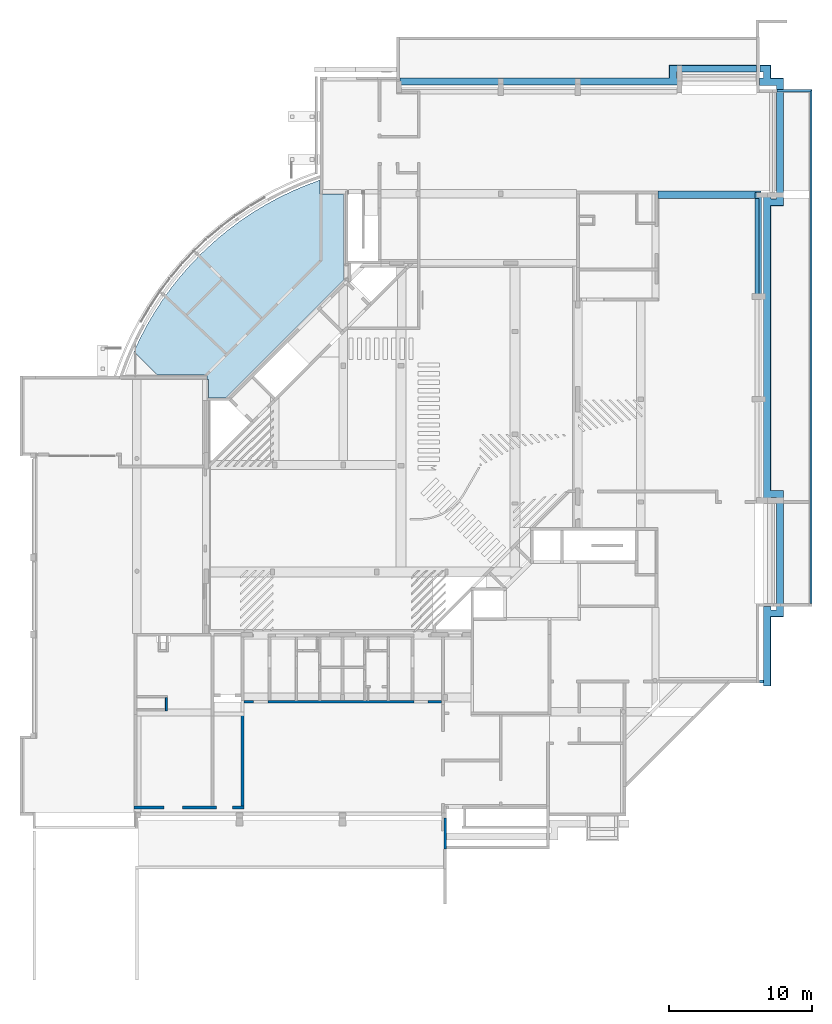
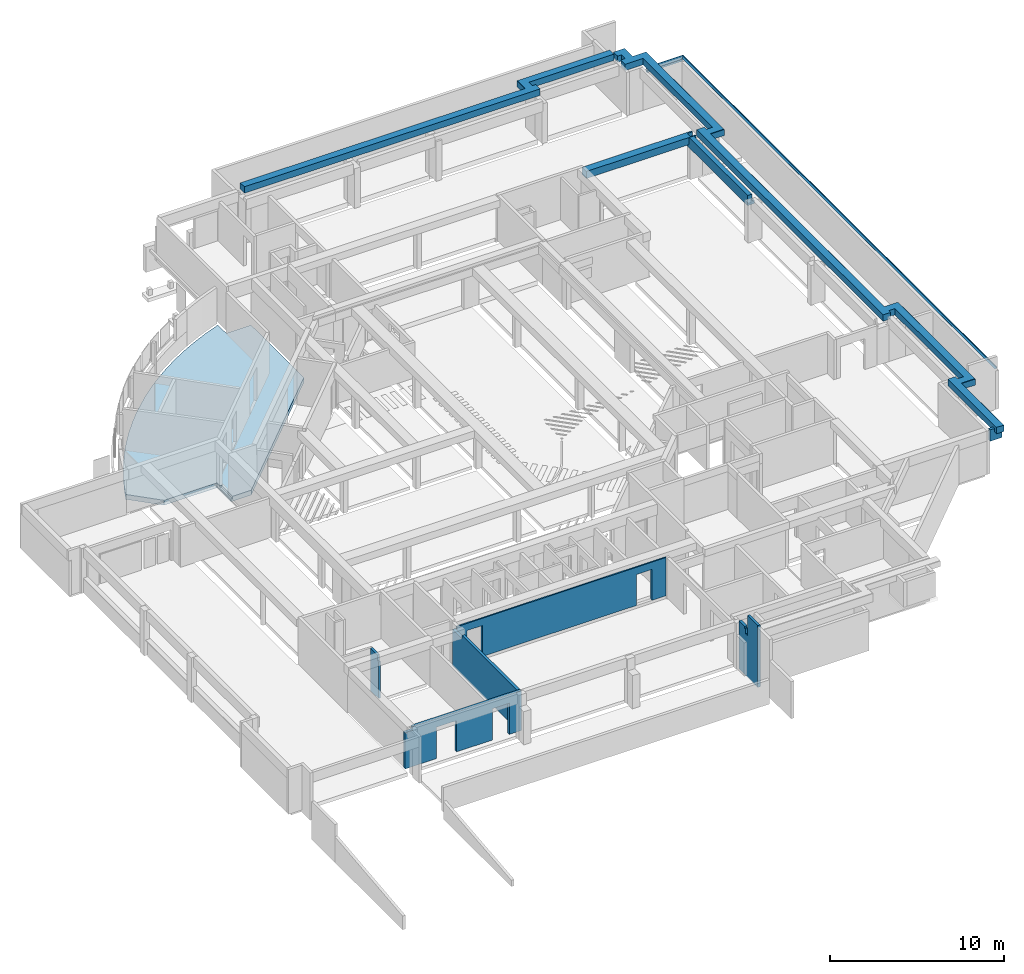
# One storey, part 14 of 22: 6 beams, 5 walls, 1 slab.
"""IFC4X3_ADD2 building model written with IfcOpenShell, lengths in millimetres."""

from ifc_helpers import new_model, si_unit, direction, frame, origin_with_axes, place, context, subcontext, project, spatial, polygons, source, transform, mapped, material, type_object, type_shapes, element, save


model = new_model("IFC4X3_ADD2")

# Units and contexts
model_context = context("Model", 3, precision=1e-05, world=origin_with_axes(), true_north=direction((0.0, 1.0)))
body_context = subcontext(model_context, "Body", "Model", "MODEL_VIEW")
ifc_project = project(units=[si_unit("LENGTHUNIT", "METRE", prefix="MILLI"), si_unit("AREAUNIT", "SQUARE_METRE"), si_unit("VOLUMEUNIT", "CUBIC_METRE"), si_unit("PLANEANGLEUNIT", "RADIAN"), si_unit("TIMEUNIT", "SECOND"), si_unit("MASSUNIT", "GRAM")], contexts=[model_context])

# Site, building, storey
site_placement = place(None, origin_with_axes())
site = spatial("IfcSite", under=ifc_project, at=site_placement, Name="Site", CompositionType="ELEMENT")
building_placement = place(site_placement, origin_with_axes())
building = spatial("IfcBuilding", under=site, at=building_placement, Name="IFC Building Story")
storey_placement = place(building_placement, frame((0.0, 0.0, -3240.0), z_axis=(0.0, 0.0, 1.0), x_axis=(1.0, 0.0, 0.0)))
storey = spatial("IfcBuildingStorey", under=building, at=storey_placement, Name="K10", Elevation=-3240.0)

# Beams
ifc_material_1 = material(Name="BB_Beton_Bestaand")
beam_type_1 = type_object("IfcBeamType", Name="BB_XX_Betonbalk_ rechthoekig_ center-center_SFB_500 x 500 mm15", PredefinedType="NOTDEFINED")
shared_shape_1 = source(origin_with_axes(), body_context, "Body", "Tessellation", [
    polygons([(7244.99999999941, 499.999999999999, -500.0), (7244.99999999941, 499.999999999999, 0.0), (7244.99999999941, 395.000000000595, 0.0), (7244.99999999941, 395.000000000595, -500.0), (0.0, 1.73258740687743e-11, 0.0), (0.0, 500.000000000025, 0.0), (0.0, 500.000000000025, -500.0), (0.0, 1.73258740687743e-11, -500.0), (7244.99999999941, 0.0, -500.0), (7244.99999999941, 0.0, 0.0), (7094.99999999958, 0.0, 0.0), (6804.99999999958, 0.0, 0.0), (6804.99999999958, 0.0, -500.0), (7094.99999999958, 0.0, -500.0), (6904.99999999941, 395.000000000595, -500.0), (6904.99999999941, 55.0000000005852, -500.0), (7244.99999999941, 55.0000000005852, -500.0), (7244.99999999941, 55.0000000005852, 0.0), (6904.99999999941, 55.0000000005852, 0.0), (6904.99999999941, 395.000000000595, 0.0)], [[[1, 2, 3, 4]], [[5, 6, 7, 8]], [[12, 5, 8]], [[12, 8, 13]], [[13, 14, 11]], [[13, 11, 12]], [[14, 9, 10]], [[14, 10, 11]], [[14, 13, 16]], [[14, 16, 17]], [[17, 9, 14]], [[13, 8, 7]], [[13, 7, 15]], [[13, 15, 16]], [[7, 1, 15]], [[1, 4, 15]], [[2, 1, 7, 6]], [[11, 10, 18]], [[18, 19, 12]], [[18, 12, 11]], [[20, 3, 2]], [[20, 2, 6]], [[6, 5, 12]], [[6, 12, 19]], [[6, 19, 20]], [[20, 15, 4, 3]], [[15, 20, 19, 16]], [[16, 19, 18, 17]], [[10, 9, 17, 18]]]),
])
type_shapes(beam_type_1, [shared_shape_1])
beam_1_placement = place(storey_placement, frame((-7000.0, 43180.0, 3040.0), z_axis=(0.0, 0.0, 1.0), x_axis=(1.0, 0.0, 0.0)))
element("IfcBeam", 1, at=beam_1_placement, inside=storey, type_object=beam_type_1, material=ifc_material_1, Name="BB_XX_Betonbalk, rechthoekig, center-center_SFB:500 x 500 mm", ObjectType="BB_XX_Betonbalk, rechthoekig, center-center_SFB:500 x 500 mm", PredefinedType="BEAM", context=body_context, shape_type="MappedRepresentation", body=[
    mapped(shared_shape_1, transform((0.0, 0.0, 0.0))),
])
beam_type_2 = type_object("IfcBeamType", Name="BB_XX_Betonbalk_ L-vorm_ center-center_SFB_460 x 720 mm - 170 x 510 mm3", PredefinedType="NOTDEFINED")
shared_shape_2 = source(origin_with_axes(), body_context, "Body", "Tessellation", [
    polygons([(289.999999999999, 7095.00000000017, 209.999999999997), (460.0, 7095.00000000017, 209.999999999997), (460.0, 7095.00000000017, 0.0), (0.0, 7095.00000000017, 0.0), (0.0, 7095.00000000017, 220.0), (289.999999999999, 7095.00000000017, 220.0), (290.00000000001, 0.0, 720.0), (1.14716236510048e-11, 0.0, 720.0), (1.14716236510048e-11, 0.0, 0.0), (460.000000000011, 0.0, 0.0), (460.000000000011, 0.0, 209.999999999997), (290.00000000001, 0.0, 209.999999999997), (0.0, 6699.99999999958, 720.0), (0.0, 6699.99999999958, 220.0), (289.999999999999, 6699.99999999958, 720.0), (289.999999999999, 6699.99999999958, 220.0)], [[[1, 2, 3]], [[3, 4, 5]], [[3, 5, 1]], [[5, 6, 1]], [[12, 7, 8]], [[12, 8, 9]], [[9, 10, 12]], [[10, 11, 12]], [[3, 2, 11, 10]], [[4, 3, 10, 9]], [[14, 5, 4]], [[14, 4, 9]], [[9, 8, 13]], [[9, 13, 14]], [[8, 7, 15, 13]], [[16, 15, 7]], [[16, 7, 12]], [[12, 1, 16]], [[1, 6, 16]], [[2, 1, 12, 11]], [[16, 14, 13, 15]], [[14, 16, 6, 5]]]),
])
type_shapes(beam_type_2, [shared_shape_2])
beam_2_placement = place(storey_placement, frame((-195.0, 36480.0, 2320.0), z_axis=(0.0, 0.0, 1.0), x_axis=(1.0, 0.0, 0.0)))
element("IfcBeam", 2, at=beam_2_placement, inside=storey, type_object=beam_type_2, material=ifc_material_1, Name="BB_XX_Betonbalk, L-vorm, center-center_SFB:460 x 720 mm - 170 x 510 mm", ObjectType="BB_XX_Betonbalk, L-vorm, center-center_SFB:460 x 720 mm - 170 x 510 mm", PredefinedType="BEAM", context=body_context, shape_type="MappedRepresentation", body=[
    mapped(shared_shape_2, transform((0.0, 0.0, 0.0))),
])
ifc_material_2 = material(Name="BB_Beton_Niet-structureel_In zicht")
beam_type_3 = type_object("IfcBeamType", Name="BB_05.07.42#02_Groendak_ L-profiel_GMO_XX_h_300", PredefinedType="NOTDEFINED")
shared_shape_3 = source(origin_with_axes(), body_context, "Body", "Tessellation", [
    polygons([(9.33972899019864e-12, -5.40869571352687e-12, -3.82387455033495e-12), (9.2494900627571e-12, -5.43125544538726e-12, 299.999999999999), (5.00000000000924, 4.99999999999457, 299.999999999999), (5.00000000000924, 4.99999999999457, 4.99999999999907), (150.000000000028, 150.000000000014, 4.99999999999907), (150.000000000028, 150.000000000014, -3.82387455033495e-12), (2460.00000000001, -5.41433564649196e-12, -3.82387455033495e-12), (2460.00000000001, -5.41433564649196e-12, 299.999999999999), (2460.00000000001, 4.9999999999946, 299.999999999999), (2460.00000000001, 4.9999999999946, 4.99999999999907), (2460.00000000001, 150.000000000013, 4.99999999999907), (2460.00000000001, 150.000000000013, -3.82387455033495e-12)], [[[4, 5, 6]], [[4, 6, 1]], [[1, 2, 3]], [[1, 3, 4]], [[2, 1, 7, 8]], [[3, 2, 8, 9]], [[4, 3, 9, 10]], [[5, 4, 10, 11]], [[6, 5, 11, 12]], [[1, 6, 12, 7]], [[10, 9, 8]], [[10, 8, 7]], [[7, 12, 11]], [[7, 11, 10]]]),
])
type_shapes(beam_type_3, [shared_shape_3])
beam_3_placement = place(storey_placement, frame((3802.04960924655, 50800.0275077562, 2495.0), z_axis=(0.0, 0.0, 1.0), x_axis=(-1.0, 0.0, 0.0)))
element("IfcBeam", 3, at=beam_3_placement, inside=storey, type_object=beam_type_3, material=ifc_material_2, Name="BB_05.07.42#02_Groendak, L-profiel_GMO:XX_h_300", ObjectType="BB_05.07.42#02_Groendak, L-profiel_GMO:XX_h_300", PredefinedType="BEAM", context=body_context, shape_type="MappedRepresentation", body=[
    mapped(shared_shape_3, transform((0.0, 0.0, 0.0))),
])
beam_type_4 = type_object("IfcBeamType", Name="BB_05.07.42#02_Groendak_ L-profiel_GMO_XX_h_100", PredefinedType="NOTDEFINED")
shared_shape_4 = source(origin_with_axes(), body_context, "Body", "Tessellation", [
    polygons([(-1.05128350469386e-11, -8.42605984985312e-12, -1.8780976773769e-12), (-1.04677155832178e-11, -8.42605984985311e-12, 99.9999999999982), (-1.01067598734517e-11, 4.99999999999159, 99.9999999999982), (-1.01067598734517e-11, 4.99999999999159, 5.0), (6.31672492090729e-12, 150.00000000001, 5.0), (6.31672492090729e-12, 150.00000000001, -1.8780976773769e-12), (36005.0275077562, -9.94884175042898e-12, -1.8780976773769e-12), (36005.0275077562, -9.94884175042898e-12, 99.9999999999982), (36000.0275077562, 4.99999999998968, 99.9999999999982), (36000.0275077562, 4.99999999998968, 5.0), (35855.0275077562, 150.000000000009, 5.0), (35855.0275077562, 150.000000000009, -1.8780976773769e-12)], [[[4, 5, 6]], [[4, 6, 1]], [[1, 2, 3]], [[1, 3, 4]], [[2, 1, 7, 8]], [[3, 2, 8, 9]], [[4, 3, 9, 10]], [[5, 4, 10, 11]], [[6, 5, 11, 12]], [[1, 6, 12, 7]], [[10, 9, 8]], [[10, 8, 7]], [[7, 12, 11]], [[7, 11, 10]]]),
])
type_shapes(beam_type_4, [shared_shape_4])
beam_4_placement = place(storey_placement, frame((3802.04960924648, 14795.0, 2695.0), z_axis=(0.0, 0.0, 1.0), x_axis=(0.0, 1.0, 0.0)))
element("IfcBeam", 4, at=beam_4_placement, inside=storey, type_object=beam_type_4, material=ifc_material_2, Name="BB_05.07.42#02_Groendak, L-profiel_GMO:XX_h_100", ObjectType="BB_05.07.42#02_Groendak, L-profiel_GMO:XX_h_100", PredefinedType="BEAM", context=body_context, shape_type="MappedRepresentation", body=[
    mapped(shared_shape_4, transform((0.0, 0.0, 0.0))),
])
beam_type_5 = type_object("IfcBeamType", Name="randbalk01_randbalk01", PredefinedType="NOTDEFINED")
shared_shape_5 = source(origin_with_axes(), body_context, "Body", "Tessellation", [
    polygons([(10.8314393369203, 42089.9999482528, 550.000480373), (10.8314393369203, 42089.9999482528, 998.762470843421), (10.8314725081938, 42589.9998872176, 998.762470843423), (10.8314725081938, 42589.9998872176, 550.000480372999), (290.831455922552, 42089.9999296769, 550.000480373), (290.831489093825, 42589.9998686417, 550.000480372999), (290.831489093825, 42589.9998686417, 998.762470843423), (290.831455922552, 42089.9999296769, 998.762470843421)], [[[1, 2, 3, 4]], [[5, 6, 7, 8]], [[2, 1, 5, 8]], [[3, 2, 8, 7]], [[4, 3, 7, 6]], [[1, 4, 6, 5]]]),
    polygons([(790.831516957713, -3.24860138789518e-12, 550.000480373), (790.831516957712, -3.24860138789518e-12, 970.514334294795), (770.931116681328, -3.24860138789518e-12, 990.414734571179), (290.831516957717, -3.24860138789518e-12, 998.762470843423), (290.831516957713, -3.24860138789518e-12, 550.000480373), (790.831516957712, 4830.0, 550.000480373), (790.831516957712, 4830.0, 970.514334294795), (770.931116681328, 4849.90040027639, 990.41473457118), (290.831516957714, 5330.0, 998.762470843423), (1691.2395980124, 4830.0, 550.000480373), (1691.2395980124, 4830.0, 970.514334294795), (1671.33919773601, 4849.90040027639, 990.41473457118), (1191.2395980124, 5330.0, 998.762470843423), (1191.2395980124, 5330.0, 550.000480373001), (790.831455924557, 5330.00000000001, 550.000480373), (790.831455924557, 5330.0, 998.762470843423), (1691.23959801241, 13699.9999389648, 550.000480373), (1691.23959801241, 13699.9999389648, 970.514334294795), (1671.33919773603, 13680.0995386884, 990.41473457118), (1191.23959801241, 13199.9999389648, 550.000480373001), (1191.23959801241, 13199.9999389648, 998.762470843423), (790.831516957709, 13699.9999389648, 550.000480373), (790.831516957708, 13699.9999389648, 970.514334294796), (770.931116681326, 13680.0995386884, 990.414734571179), (790.831455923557, 13199.9999389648, 998.762470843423), (790.831455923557, 13199.9999389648, 550.000480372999), (790.831516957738, 33629.9998779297, 550.000480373), (790.831516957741, 33629.9998779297, 970.514334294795), (770.931116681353, 33649.9002782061, 990.41473457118), (290.831516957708, 13199.9999389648, 998.762470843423), (290.831516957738, 34129.9998779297, 998.762470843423), (290.831516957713, 34379.9998779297, 998.762470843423), (290.831516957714, 34379.9998779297, 550.000480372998), (290.831516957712, 12989.9999389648, 550.000480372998), (290.831516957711, 12989.9999389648, 998.762470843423), (1691.23959801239, 33629.9998779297, 550.000480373), (1691.23959801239, 33629.9998779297, 970.514334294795), (1671.33919773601, 33649.9002782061, 990.41473457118), (1191.2395980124, 34129.9998779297, 998.762470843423), (1191.23959801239, 34129.9998779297, 550.000480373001), (790.831455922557, 34129.9998779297, 550.000480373), (790.831455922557, 34129.9998779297, 998.762470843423), (40.831455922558, 43509.9999389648, 550.000480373), (40.8314559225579, 43009.9999389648, 550.000480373), (40.831455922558, 43009.9999389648, 998.762470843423), (40.831455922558, 43490.0995386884, 990.41473457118), (40.831455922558, 43509.9999389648, 970.514334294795), (1691.2395980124, 42589.9998779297, 550.000480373), (1691.2395980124, 42589.9998779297, 970.514334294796), (1671.33919773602, 42570.0994776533, 990.414734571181), (1191.2395980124, 42089.9998779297, 550.000480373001), (1191.23959801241, 42089.9998779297, 998.762470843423), (790.831489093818, 42589.9998779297, 550.000480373), (790.831489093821, 42589.9998779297, 970.514334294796), (770.931087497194, 42570.0994776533, 990.41473457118), (290.831455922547, 42089.9998779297, 998.762470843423), (290.831455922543, 42089.9998779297, 550.000480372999), (790.83155012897, 43509.9999389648, 550.000480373), (790.831550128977, 43509.9999389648, 970.514334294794), (770.931148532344, 43490.0995386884, 990.41473457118), (290.8315169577, 43009.9999389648, 998.762470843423), (290.831516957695, 43009.9999389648, 550.000480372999), (790.831455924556, 5580.00000000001, 998.762470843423), (790.831455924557, 5580.00000000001, 550.000480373), (290.831516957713, 5580.0, 550.000480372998), (290.831516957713, 5580.0, 998.762470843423), (790.831455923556, 12989.9999389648, 550.000480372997), (790.831455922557, 34379.9998779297, 550.000480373), (790.831455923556, 12989.9999389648, 998.762470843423), (790.831455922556, 34379.9998779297, 998.762470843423)], [[[1, 2, 3]], [[1, 3, 4]], [[1, 4, 5]], [[2, 1, 6, 7]], [[3, 2, 7, 8]], [[4, 3, 8, 9]], [[7, 6, 10, 11]], [[8, 7, 11, 12]], [[13, 14, 15, 16]], [[10, 17, 18, 11]], [[12, 11, 18, 19]], [[20, 14, 13, 21]], [[17, 22, 23, 18]], [[19, 18, 23, 24]], [[20, 21, 25, 26]], [[22, 27, 28, 23]], [[24, 23, 28, 29]], [[31, 32, 33]], [[33, 34, 30]], [[33, 30, 31]], [[34, 35, 30]], [[27, 36, 37, 28]], [[29, 28, 37, 38]], [[39, 40, 41, 42]], [[43, 44, 45]], [[43, 45, 46]], [[43, 46, 47]], [[36, 48, 49, 37]], [[38, 37, 49, 50]], [[51, 40, 39, 52]], [[16, 9, 8]], [[8, 12, 13]], [[8, 13, 16]], [[13, 12, 19, 21]], [[25, 21, 19]], [[25, 19, 24]], [[24, 30, 25]], [[30, 24, 29, 31]], [[42, 31, 29]], [[29, 38, 39]], [[29, 39, 42]], [[39, 38, 50, 52]], [[48, 53, 54, 49]], [[50, 49, 54, 55]], [[52, 50, 55, 56]], [[57, 51, 52, 56]], [[53, 58, 59, 54]], [[55, 54, 59, 60]], [[56, 55, 60, 61]], [[62, 57, 56, 61]], [[58, 43, 47, 59]], [[47, 46, 60, 59]], [[46, 45, 61, 60]], [[44, 62, 61, 45]], [[63, 64, 65, 66]], [[64, 63, 16, 15]], [[26, 67, 34]], [[62, 44, 43]], [[53, 51, 57]], [[62, 43, 58]], [[58, 53, 57]], [[58, 57, 62]], [[51, 53, 48]], [[48, 36, 40]], [[48, 40, 51]], [[36, 27, 40]], [[27, 41, 40]], [[22, 20, 26]], [[22, 26, 34]], [[34, 33, 27]], [[34, 27, 22]], [[33, 41, 27]], [[33, 68, 41]], [[20, 22, 17]], [[17, 10, 14]], [[17, 14, 20]], [[10, 6, 14]], [[6, 15, 14]], [[6, 1, 5]], [[6, 5, 65]], [[65, 15, 6]], [[65, 64, 15]], [[9, 66, 65]], [[65, 5, 4]], [[65, 4, 9]], [[63, 66, 9, 16]], [[69, 35, 34, 67]], [[35, 69, 25, 30]], [[69, 67, 26, 25]], [[70, 68, 33, 32]], [[68, 70, 42, 41]], [[70, 32, 31, 42]]]),
    polygons([(0.0, 210.311718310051, 0.0), (789.999980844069, 210.311718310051, 0.0), (789.999980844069, 210.311718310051, 550.000480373), (285.786927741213, 210.311718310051, 550.000480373), (285.786927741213, 210.311718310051, 799.999999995), (0.0, 210.311718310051, 799.999999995), (0.0, 410.311741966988, 0.0), (0.0, 410.311741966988, 799.999999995), (285.786927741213, 410.311741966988, 799.999999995), (285.786927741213, 410.311741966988, 550.000480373), (789.999980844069, 410.311741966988, 550.000480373), (789.999980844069, 410.311741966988, 0.0)], [[[4, 5, 6]], [[4, 6, 1]], [[1, 2, 3]], [[1, 3, 4]], [[10, 11, 12]], [[10, 12, 7]], [[7, 8, 10]], [[8, 9, 10]], [[2, 1, 7, 12]], [[3, 2, 12, 11]], [[4, 3, 11, 10]], [[5, 4, 10, 9]], [[6, 5, 9, 8]], [[1, 6, 8, 7]]]),
])
type_shapes(beam_type_5, [shared_shape_5])
beam_5_placement = place(storey_placement, frame((134.168544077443, 9015.00012207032, 2240.0), z_axis=(0.0, 0.0, 1.0), x_axis=(1.0, 0.0, 0.0)))
element("IfcBeam", 5, at=beam_5_placement, inside=storey, type_object=beam_type_5, Name="randbalk01:randbalk01", ObjectType="randbalk01:randbalk01", PredefinedType="BEAM", context=body_context, shape_type="MappedRepresentation", body=[
    mapped(shared_shape_5, transform((0.0, 0.0, 0.0))),
])
ifc_material_3 = material(Name="BB_Beton_Structureel_In zicht")
beam_type_6 = type_object("IfcBeamType", Name="randbalk1_randbalk01", PredefinedType="NOTDEFINED")
shared_shape_6 = source(origin_with_axes(), body_context, "Body", "Tessellation", [
    polygons([(24984.9999891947, 1400.00012207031, 2.94404500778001e-12), (24984.9999891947, 1400.00012207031, 420.000000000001), (24984.9999896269, 1380.0001220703, 440.000000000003), (24985.0, 900.000122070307, 450.000000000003), (24985.0, 900.000122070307, 1.92885707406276e-12), (18860.0000002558, 1399.99998970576, 2.94404500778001e-12), (18860.0000002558, 1399.99998970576, 420.000000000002), (19360.0000002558, 900.00000051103, 450.000000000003), (19360.0000002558, 900.00000051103, 0.0), (18860.0000002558, 499.999999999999, 2.94404500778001e-12), (18860.0000002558, 499.999999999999, 420.000000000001), (19360.0000002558, 500.000061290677, 450.000000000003), (19360.0000002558, 500.000061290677, 1.86117787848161e-12), (0.0, 500.00000000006, 2.94404500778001e-12), (0.0, 500.00000000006, 420.000000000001), (0.0, 6.064055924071e-11, 2.94404500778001e-12), (0.0, 3.46517481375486e-11, 450.000000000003), (0.0, 480.000000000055, 440.000000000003), (18880.0000002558, 1379.99999013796, 440.000000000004), (18880.0000002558, 479.999999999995, 440.000000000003), (19360.0000002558, 0.0, 450.000000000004), (19575.0, 0.0, 450.000000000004), (19575.0, 0.0, 2.94404500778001e-12), (19575.0, 500.000061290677, 1.31974431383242e-12), (19575.0, 500.000061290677, 450.000000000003)], [[[1, 2, 3]], [[1, 3, 4]], [[1, 4, 5]], [[2, 1, 6, 7]], [[5, 4, 8, 9]], [[7, 6, 10, 11]], [[9, 8, 12, 13]], [[10, 14, 15, 11]], [[14, 16, 17]], [[14, 17, 18]], [[14, 18, 15]], [[3, 2, 7, 19]], [[4, 3, 19, 8]], [[7, 11, 20, 19]], [[12, 8, 19]], [[12, 19, 20]], [[20, 21, 12]], [[11, 15, 18, 20]], [[17, 21, 20, 18]], [[22, 23, 24, 25]], [[21, 17, 16]], [[21, 16, 23]], [[23, 22, 21]], [[13, 24, 10]], [[10, 9, 13]], [[9, 10, 6]], [[6, 1, 5]], [[6, 5, 9]], [[10, 24, 23]], [[23, 16, 14]], [[23, 14, 10]], [[25, 24, 13, 12]], [[22, 25, 12, 21]]]),
])
type_shapes(beam_type_6, [shared_shape_6])
beam_6_placement = place(storey_placement, frame((-25060.0, 51125.0, 3020.000480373), z_axis=(0.0, 0.0, 1.0), x_axis=(1.0, 0.0, 0.0)))
element("IfcBeam", 6, at=beam_6_placement, inside=storey, type_object=beam_type_6, material=ifc_material_3, Name="randbalk1:randbalk01", ObjectType="randbalk1:randbalk01", PredefinedType="BEAM", context=body_context, shape_type="MappedRepresentation", body=[
    mapped(shared_shape_6, transform((0.0, 0.0, 0.0))),
])

# Slab
slab_placement = place(storey_placement, frame((0.0, 0.0, 3240.0), z_axis=(0.0, 0.0, 1.0), x_axis=(1.0, 0.0, 0.0)))
element("IfcSlab", 7, at=slab_placement, inside=storey, Name="Floor:BB_XX_Vloer welfsels, 340 mm", ObjectType="Floor:BB_XX_Vloer welfsels, 340 mm", PredefinedType="FLOOR", context=body_context, shape_type="Tessellation", body=[
    polygons([(-29020.0, 37445.542571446, -3780.0), (-37265.5425714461, 29199.9999999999, -3780.0), (-38599.9999999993, 29199.9999999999, -3780.0), (-38599.9999999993, 30820.0, -3780.0), (-42101.4465545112, 30820.0, -3780.0), (-43715.1108049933, 32433.6642504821, -3780.0), (-43274.9066481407, 33380.4461312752, -3780.0), (-42790.3529261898, 34305.3154842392, -3780.0), (-42262.5372837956, 35206.1963182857, -3780.0), (-41692.6444726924, 36081.0664877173, -3780.0), (-41081.9536923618, 36927.9622311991, -3780.0), (-40431.8357187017, 37744.9825796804, -3780.0), (-39743.7498271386, 38530.2936233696, -3780.0), (-39019.240517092, 39282.1326281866, -3780.0), (-38443.5010282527, 39812.7967709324, -3780.0), (-37867.7615394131, 40343.4609136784, -3780.0), (-37059.4783728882, 41004.4101948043, -3780.0), (-36220.7969887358, 41626.3339565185, -3780.0), (-35353.5999177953, 42207.8362090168, -3780.0), (-34459.8336981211, 42747.611693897, -3780.0), (-33541.5045057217, 43244.4488139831, -3780.0), (-32600.6736514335, 43697.2323529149, -3780.0), (-31639.4529540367, 44104.9459783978, -3780.0), (-30660.0000000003, 44466.6745234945, -3780.0), (-30660.0000000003, 43500.0000000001, -3780.0), (-29020.0, 43500.0000000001, -3780.0), (-43715.1108049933, 32433.6642504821, -3440.0), (-42101.4465545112, 30820.0, -3440.0), (-38599.9999999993, 30820.0, -3440.0), (-38599.9999999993, 30500.0, -3440.0), (-38500.0000000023, 30500.0, -3440.0), (-38500.0000000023, 29199.9999999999, -3440.0), (-37265.5425714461, 29199.9999999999, -3440.0), (-29020.0, 37445.542571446, -3440.0), (-29020.0, 43500.0000000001, -3440.0), (-30660.0000000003, 43500.0000000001, -3440.0), (-30660.0000000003, 44466.6745234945, -3440.0), (-31639.4529540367, 44104.9459783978, -3440.0), (-32600.6736514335, 43697.2323529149, -3440.0), (-33541.5045057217, 43244.4488139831, -3440.0), (-34459.8336981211, 42747.611693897, -3440.0), (-35353.5999177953, 42207.8362090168, -3440.0), (-36220.7969887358, 41626.3339565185, -3440.0), (-37059.4783728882, 41004.4101948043, -3440.0), (-37867.7615394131, 40343.4609136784, -3440.0), (-38443.5010282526, 39812.7967709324, -3440.0), (-39019.240517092, 39282.1326281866, -3440.0), (-39743.7498271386, 38530.2936233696, -3440.0), (-40431.8357187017, 37744.9825796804, -3440.0), (-41081.9536923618, 36927.9622311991, -3440.0), (-41692.6444726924, 36081.0664877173, -3440.0), (-42262.5372837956, 35206.1963182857, -3440.0), (-42790.3529261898, 34305.3154842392, -3440.0), (-43274.9066481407, 33380.4461312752, -3440.0), (-38500.0000000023, 29199.9999999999, -3600.0), (-38500.0000000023, 30500.0, -3600.0), (-38599.9999999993, 30500.0, -3600.0), (-38599.9999999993, 29199.9999999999, -3600.0)], [[[25, 26, 1]], [[1, 23, 25]], [[23, 24, 25]], [[1, 22, 23]], [[1, 21, 22]], [[1, 20, 21]], [[1, 19, 20]], [[1, 18, 19]], [[1, 17, 18]], [[1, 16, 17]], [[1, 4, 15]], [[1, 15, 16]], [[4, 14, 15]], [[4, 13, 14]], [[4, 12, 13]], [[4, 11, 12]], [[4, 10, 11]], [[4, 9, 10]], [[4, 8, 9]], [[4, 7, 8]], [[4, 5, 6]], [[4, 6, 7]], [[1, 2, 4]], [[2, 3, 4]], [[31, 32, 33]], [[33, 29, 31]], [[29, 30, 31]], [[47, 48, 49]], [[49, 46, 47]], [[49, 45, 46]], [[49, 44, 45]], [[49, 43, 44]], [[49, 36, 42]], [[49, 42, 43]], [[36, 41, 42]], [[36, 40, 41]], [[36, 39, 40]], [[36, 38, 39]], [[36, 37, 38]], [[54, 27, 28]], [[29, 33, 51]], [[51, 54, 28]], [[51, 28, 29]], [[51, 53, 54]], [[51, 52, 53]], [[33, 50, 51]], [[33, 34, 35]], [[33, 35, 36]], [[33, 36, 49]], [[33, 49, 50]], [[55, 56, 57, 58]], [[25, 24, 37, 36]], [[1, 26, 35, 34]], [[26, 25, 36, 35]], [[2, 1, 34, 33]], [[55, 58, 3]], [[55, 3, 2]], [[55, 2, 33]], [[33, 32, 55]], [[5, 4, 29, 28]], [[57, 56, 31, 30]], [[57, 30, 29]], [[57, 29, 4]], [[4, 3, 58]], [[4, 58, 57]], [[55, 32, 31, 56]], [[6, 5, 28, 27]], [[7, 54, 53, 8]], [[6, 27, 54, 7]], [[8, 53, 52, 9]], [[49, 48, 13, 12]], [[10, 51, 50, 11]], [[11, 50, 49, 12]], [[52, 51, 10, 9]], [[13, 48, 47, 14]], [[46, 45, 16]], [[46, 16, 15]], [[15, 14, 47]], [[15, 47, 46]], [[17, 44, 43, 18]], [[16, 45, 44, 17]], [[18, 43, 42, 19]], [[39, 38, 23, 22]], [[20, 41, 40, 21]], [[21, 40, 39, 22]], [[42, 41, 20, 19]], [[23, 38, 37, 24]]]),
])

# Walls
wall_1_placement = place(storey_placement, frame((0.0, 0.0, 3240.0), z_axis=(0.0, 0.0, 1.0), x_axis=(1.0, 0.0, 0.0)))
element("IfcWall", 8, at=wall_1_placement, inside=storey, Name="Basic Wall:BB_XX_Wand uit beton, 170 mm", ObjectType="Basic Wall:BB_XX_Wand uit beton, 170 mm", PredefinedType="SOLIDWALL", context=body_context, shape_type="Tessellation", body=[
    polygons([(-21805.0, -2405.0, -3440.0), (-21805.0, -245.0000000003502, -3440.0), (-21805.0, -245.0000000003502, -80.0), (-21805.0, -905.00000000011, -80.0), (-21805.0, -905.00000000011, -200.0), (-21805.0, -994.9999999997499, -200.0), (-21805.0, -994.9999999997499, -540.0), (-21805.0, -1205.00000000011, -540.0), (-21805.0, -1205.00000000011, 150.0), (-21805.0, -1225.00000000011, 150.0), (-21805.0, -1225.00000000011, 890.00000000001), (-21805.0, -2405.0, 890.00000000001), (-21975.0, -2405.0, -3440.0), (-21975.0, -2405.0, 890.00000000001), (-21975.0, -1225.00000000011, 890.00000000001), (-21975.0, -1225.00000000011, 150.0), (-21975.0, -1205.00000000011, 150.0), (-21975.0, -1205.00000000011, -540.0), (-21975.0, -994.9999999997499, -540.0), (-21975.0, -994.9999999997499, -200.0), (-21975.0, -905.00000000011, -200.0), (-21975.0, -905.00000000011, -80.0), (-21975.0, -245.0000000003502, -80.0), (-21975.0, -245.0000000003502, -3440.0)], [[[10, 11, 12]], [[12, 8, 10]], [[8, 9, 10]], [[12, 1, 2]], [[12, 2, 8]], [[2, 7, 8]], [[2, 5, 7]], [[5, 6, 7]], [[2, 3, 5]], [[3, 4, 5]], [[16, 17, 18]], [[21, 22, 23]], [[23, 19, 21]], [[19, 20, 21]], [[19, 23, 24]], [[24, 18, 19]], [[18, 24, 13]], [[18, 13, 14]], [[14, 16, 18]], [[14, 15, 16]], [[2, 1, 13, 24]], [[3, 2, 24, 23]], [[4, 3, 23, 22]], [[1, 12, 14, 13]], [[8, 7, 19, 18]], [[12, 11, 15, 14]], [[5, 21, 20, 6]], [[7, 6, 20, 19]], [[5, 4, 22, 21]], [[16, 10, 9, 17]], [[9, 8, 18, 17]], [[11, 10, 16, 15]]]),
])
wall_2_placement = place(storey_placement, frame((0.0, 0.0, 3240.0), z_axis=(0.0, 0.0, 1.0), x_axis=(1.0, 0.0, 0.0)))
element("IfcWall", 9, at=wall_2_placement, inside=storey, Name="Basic Wall:BB_03.09.24#05_Wand uit metselwerk_EI60, 190 mm", ObjectType="Basic Wall:BB_03.09.24#05_Wand uit metselwerk_EI60, 190 mm", PredefinedType="SOLIDWALL", context=body_context, shape_type="Tessellation", body=[
    polygons([(-36190.0, 7999.999999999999, -3240.0), (-36190.0, 595.0000000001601, -3240.0), (-36190.0, 595.0000000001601, -460.0), (-36190.0, 6900.00000000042, -460.0), (-36190.0, 6900.00000000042, -700.0), (-36190.0, 7999.999999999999, -700.0), (-36000.0, 8000.0, -3240.0), (-36000.0, 8000.0, -700.0), (-36000.0, 7990.0, -700.0), (-36000.0, 7890.000000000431, -700.0), (-36000.0, 6900.00000000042, -700.0), (-36000.0, 6900.00000000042, -460.0), (-36000.0, 595.0000000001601, -460.0), (-36000.0, 595.0000000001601, -3240.0), (-36000.0, 7625.0, -3240.0), (-36000.0, 7800.0, -3240.0)], [[[5, 6, 1]], [[1, 2, 3]], [[1, 3, 5]], [[3, 4, 5]], [[11, 12, 13]], [[15, 16, 10]], [[11, 13, 14]], [[11, 14, 15]], [[15, 10, 11]], [[16, 7, 9]], [[16, 9, 10]], [[7, 8, 9]], [[3, 2, 14, 13]], [[15, 14, 2]], [[15, 2, 1]], [[1, 16, 15]], [[1, 7, 16]], [[4, 3, 13, 12]], [[1, 6, 8, 7]], [[5, 4, 12, 11]], [[9, 8, 6]], [[6, 10, 9]], [[6, 5, 11]], [[6, 11, 10]]]),
])
wall_3_placement = place(storey_placement, frame((0.0, 0.0, 3240.0), z_axis=(0.0, 0.0, 1.0), x_axis=(1.0, 0.0, 0.0)))
element("IfcWall", 10, at=wall_3_placement, inside=storey, Name="Basic Wall:BB_03.09.24#05_Wand uit metselwerk_EI60, 190 mm", ObjectType="Basic Wall:BB_03.09.24#05_Wand uit metselwerk_EI60, 190 mm", PredefinedType="SOLIDWALL", context=body_context, shape_type="Tessellation", body=[
    polygons([(-43200.00000000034, 595.0, -460.0), (-38299.99999999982, 595.0, -460.0), (-38109.99999999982, 595.0, -460.0), (-36190.00000000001, 595.0, -460.0), (-36000.0, 595.0, -460.0), (-36000.00000000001, 595.0, -3240.0), (-36190.00000000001, 595.0, -3240.0), (-36799.99999999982, 595.0, -3240.0), (-36799.99999999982, 595.0000000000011, -1050.0), (-37909.99999999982, 594.9999999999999, -1050.0), (-37909.99999999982, 595.0, -3240.0), (-38109.99999999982, 595.0, -3240.0), (-38299.99999999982, 595.0, -3240.0), (-40299.99999999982, 595.0, -3240.0), (-40299.99999999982, 595.0, -1050.0), (-41609.99999999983, 595.0, -1050.0), (-41609.99999999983, 595.0, -3240.0), (-43510.00000000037, 595.0, -3240.0), (-43700.00000000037, 595.0, -3240.0), (-43700.00000000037, 595.0, -700.0), (-43510.00000000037, 595.0, -700.0), (-43200.00000000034, 595.0, -700.0), (-36000.00000000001, 405.0, -460.0), (-43200.00000000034, 405.0, -460.0), (-43200.00000000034, 405.0, -700.0), (-43700.00000000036, 404.9999999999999, -700.0), (-43700.00000000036, 405.0, -3240.0), (-41609.99999999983, 405.0, -3240.0), (-41609.99999999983, 404.9999999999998, -1050.0), (-40299.99999999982, 405.0000000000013, -1050.0), (-40299.99999999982, 405.0, -3240.0), (-37909.99999999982, 405.0, -3240.0), (-37909.99999999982, 404.9999999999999, -1050.0), (-36799.99999999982, 405.0000000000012, -1050.0), (-36799.99999999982, 405.0, -3240.0), (-36000.00000000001, 405.0, -3240.0)], [[[4, 5, 6]], [[4, 6, 7]], [[10, 11, 12]], [[10, 12, 3]], [[3, 4, 9]], [[3, 9, 10]], [[4, 7, 8]], [[4, 8, 9]], [[12, 13, 2]], [[12, 2, 3]], [[18, 19, 20]], [[18, 20, 21]], [[22, 1, 16]], [[16, 17, 18]], [[16, 18, 21]], [[16, 21, 22]], [[1, 2, 15]], [[1, 15, 16]], [[2, 13, 14]], [[2, 14, 15]], [[25, 26, 27]], [[25, 27, 28]], [[25, 28, 29]], [[34, 35, 36]], [[34, 36, 23]], [[23, 33, 34]], [[33, 23, 30]], [[30, 31, 32]], [[30, 32, 33]], [[23, 24, 30]], [[24, 25, 29]], [[24, 29, 30]], [[20, 19, 27, 26]], [[6, 5, 23, 36]], [[18, 17, 28]], [[18, 28, 27]], [[27, 19, 18]], [[2, 1, 24]], [[24, 3, 2]], [[24, 23, 3]], [[23, 4, 3]], [[23, 5, 4]], [[21, 20, 26]], [[26, 25, 22]], [[26, 22, 21]], [[1, 22, 25, 24]], [[16, 15, 30, 29]], [[15, 14, 31, 30]], [[17, 16, 29, 28]], [[9, 34, 33, 10]], [[34, 9, 8, 35]], [[10, 33, 32, 11]], [[7, 6, 36]], [[36, 35, 8]], [[36, 8, 7]], [[12, 11, 32]], [[32, 13, 12]], [[32, 31, 14]], [[32, 14, 13]]]),
])
wall_4_placement = place(storey_placement, frame((0.0, 0.0, 3240.0), z_axis=(0.0, 0.0, 1.0), x_axis=(1.0, 0.0, 0.0)))
element("IfcWall", 11, at=wall_4_placement, inside=storey, Name="Basic Wall:BB_03.09.24#05_Wand uit metselwerk_EI60, 190 mm", ObjectType="Basic Wall:BB_03.09.24#05_Wand uit metselwerk_EI60, 190 mm", PredefinedType="SOLIDWALL", context=body_context, shape_type="Tessellation", body=[
    polygons([(-22145.0000000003, 7800.0, -460.0), (-36000.0, 7799.999999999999, -460.0), (-36000.0, 7799.999999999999, -3140.0), (-35320.00000000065, 7800.0, -3140.0), (-35320.00000000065, 7799.999999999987, -970.0), (-34310.00000000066, 7799.999999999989, -970.0), (-34310.00000000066, 7800.0, -3140.0), (-24095.0000000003, 7800.0, -3140.0), (-24095.0000000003, 7800.0, -970.0), (-23085.0000000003, 7800.0, -970.0), (-23085.0000000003, 7800.0, -3140.0), (-22145.0000000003, 7800.0, -3140.0), (-22145.0000000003, 7990.0, -3140.0), (-23085.0000000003, 7990.0, -3140.0), (-23085.0000000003, 7990.0, -970.0), (-24095.0000000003, 7990.0, -970.0), (-24095.0000000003, 7990.0, -3140.0), (-24285.0000000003, 7989.999999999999, -3140.0), (-25805.000000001, 7990.0, -3140.0), (-25945.000000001, 7989.999999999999, -3140.0), (-27455.00000000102, 7990.0, -3140.0), (-27595.00000000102, 7990.0, -3140.0), (-30605.00000000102, 7990.0, -3140.0), (-30745.00000000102, 7989.999999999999, -3140.0), (-32255.00000000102, 7990.0, -3140.0), (-32395.00000000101, 7989.999999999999, -3140.0), (-34120.00000000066, 7989.999999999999, -3140.0), (-34310.00000000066, 7990.0, -3140.0), (-34310.00000000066, 7989.999999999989, -970.0), (-35320.00000000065, 7989.999999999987, -970.0), (-35320.00000000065, 7990.0, -3140.0), (-36000.0, 7989.999999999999, -3140.0), (-36000.0, 7989.999999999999, -700.0), (-34310.00000000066, 7990.0, -700.0), (-34120.00000000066, 7989.999999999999, -700.0), (-32395.00000000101, 7989.999999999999, -700.0), (-32255.00000000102, 7990.0, -700.0), (-30745.00000000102, 7989.999999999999, -700.0), (-30605.00000000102, 7990.0, -700.0), (-27595.00000000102, 7990.0, -700.0), (-27455.00000000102, 7990.0, -700.0), (-25945.000000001, 7989.999999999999, -700.0), (-25805.000000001, 7990.0, -700.0), (-24285.0000000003, 7989.999999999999, -700.0), (-24095.0000000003, 7990.0, -700.0), (-22145.0000000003, 7990.0, -700.0), (-22145.0000000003, 7890.000000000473, -460.0), (-36000.0, 7890.000000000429, -460.0), (-36000.00000000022, 7890.000000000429, -700.0), (-22145.0000000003, 7890.000000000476, -700.0), (-22145.0000000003, 7895.0, -700.0)], [[[10, 11, 12]], [[10, 12, 1]], [[1, 9, 10]], [[9, 1, 6]], [[6, 7, 8]], [[6, 8, 9]], [[1, 2, 6]], [[2, 5, 6]], [[2, 3, 4]], [[2, 4, 5]], [[27, 28, 29]], [[29, 26, 27]], [[29, 25, 26]], [[29, 24, 25]], [[29, 23, 24]], [[29, 16, 22]], [[29, 22, 23]], [[16, 21, 22]], [[16, 20, 21]], [[16, 19, 20]], [[16, 18, 19]], [[16, 17, 18]], [[30, 31, 32]], [[30, 32, 33]], [[33, 34, 29]], [[33, 29, 30]], [[44, 45, 16]], [[16, 43, 44]], [[16, 42, 43]], [[16, 41, 42]], [[16, 40, 41]], [[16, 39, 40]], [[16, 38, 39]], [[16, 29, 38]], [[29, 37, 38]], [[29, 36, 37]], [[29, 35, 36]], [[29, 34, 35]], [[45, 46, 15]], [[45, 15, 16]], [[46, 13, 14]], [[46, 14, 15]], [[3, 32, 31, 4]], [[2, 1, 47, 48]], [[49, 33, 32]], [[49, 32, 3]], [[3, 2, 49]], [[2, 48, 49]], [[15, 10, 9, 16]], [[16, 9, 8, 17]], [[10, 15, 14, 11]], [[29, 6, 5, 30]], [[6, 29, 28, 7]], [[30, 5, 4, 31]], [[50, 49, 48, 47]], [[34, 33, 49]], [[49, 35, 34]], [[49, 36, 35]], [[49, 37, 36]], [[49, 38, 37]], [[49, 39, 38]], [[49, 40, 39]], [[49, 41, 40]], [[49, 42, 41]], [[49, 43, 42]], [[49, 44, 43]], [[49, 45, 44]], [[49, 51, 45]], [[51, 46, 45]], [[49, 50, 51]], [[50, 47, 1]], [[1, 12, 50]], [[12, 13, 51]], [[12, 51, 50]], [[13, 46, 51]], [[18, 17, 8]], [[8, 19, 18]], [[8, 20, 19]], [[8, 21, 20]], [[8, 22, 21]], [[8, 23, 22]], [[8, 24, 23]], [[8, 25, 24]], [[8, 26, 25]], [[8, 7, 26]], [[7, 27, 26]], [[7, 28, 27]], [[13, 12, 11, 14]]]),
])
wall_5_placement = place(storey_placement, frame((0.0, 0.0, 3240.0), z_axis=(0.0, 0.0, 1.0), x_axis=(1.0, 0.0, 0.0)))
element("IfcWall", 12, at=wall_5_placement, inside=storey, Name="Basic Wall:BB_03.09.24#02_Wand uit metselwerk_EI60_43dB, 140 mm", ObjectType="Basic Wall:BB_03.09.24#02_Wand uit metselwerk_EI60_43dB, 140 mm", PredefinedType="SOLIDWALL", context=body_context, shape_type="Tessellation", body=[
    polygons([(-41500.0, 8200.0, -3240.0), (-41500.0, 7399.999999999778, -3240.0), (-41500.0, 7259.999999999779, -3240.0), (-41500.0, 7259.999999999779, -680.0), (-41500.0, 7399.999999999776, -680.0), (-41500.0, 7399.999999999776, -280.0), (-41500.0, 8200.0, -280.0), (-41360.0, 7259.999999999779, -3240.0), (-41360.0, 8200.0, -3240.0), (-41360.0, 8200.0, -280.0), (-41360.0, 7399.999999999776, -280.0), (-41360.0, 7399.999999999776, -680.0), (-41360.0, 7259.999999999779, -680.0)], [[[2, 3, 4]], [[2, 4, 5]], [[5, 6, 7]], [[7, 1, 2]], [[7, 2, 5]], [[12, 13, 8]], [[8, 9, 10]], [[8, 10, 12]], [[10, 11, 12]], [[2, 1, 9]], [[2, 9, 8]], [[8, 3, 2]], [[10, 7, 6, 11]], [[1, 7, 10, 9]], [[3, 8, 13, 4]], [[12, 5, 4, 13]], [[5, 12, 11, 6]]]),
])

save(model, "model.ifc")
